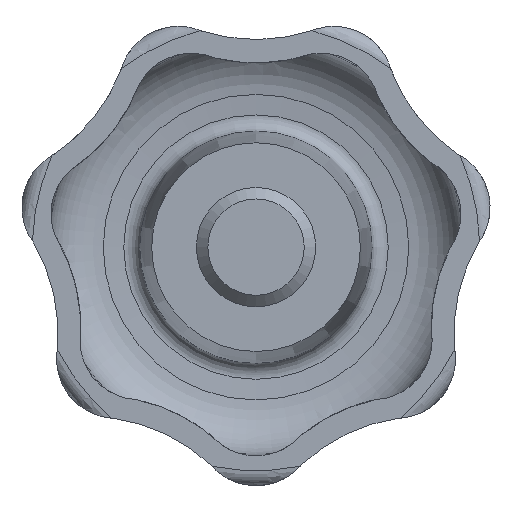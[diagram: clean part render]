
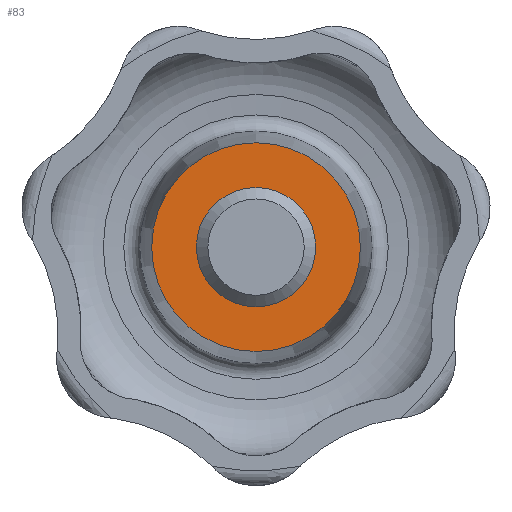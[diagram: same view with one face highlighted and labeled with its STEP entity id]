
A CAD part, front view. The second image highlights one B-rep face of the part: STEP entity #83.
In plain terms, the highlighted planar face has unit normal (0, -1, 0).
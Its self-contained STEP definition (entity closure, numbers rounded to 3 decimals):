
#83 = ADVANCED_FACE( '', ( #167, #168 ), #169, .F. );
#167 = FACE_BOUND( '', #326, .T. );
#168 = FACE_OUTER_BOUND( '', #327, .T. );
#169 = PLANE( '', #328 );
#326 = EDGE_LOOP( '', ( #553 ) );
#327 = EDGE_LOOP( '', ( #554 ) );
#328 = AXIS2_PLACEMENT_3D( '', #555, #556, #557 );
#553 = ORIENTED_EDGE( '', *, *, #1141, .F. );
#554 = ORIENTED_EDGE( '', *, *, #1142, .T. );
#555 = CARTESIAN_POINT( '', ( 7., 0., 0. ) );
#556 = DIRECTION( '', ( 0., 1., 0. ) );
#557 = DIRECTION( '', ( 0., 0., 1. ) );
#1141 = EDGE_CURVE( '', #1391, #1391, #1392, .T. );
#1142 = EDGE_CURVE( '', #1393, #1393, #1394, .T. );
#1391 = VERTEX_POINT( '', #2071 );
#1392 = CIRCLE( '', #2072, 4. );
#1393 = VERTEX_POINT( '', #2073 );
#1394 = CIRCLE( '', #2074, 7. );
#2071 = CARTESIAN_POINT( '', ( 0., 0., -4. ) );
#2072 = AXIS2_PLACEMENT_3D( '', #3043, #3044, #3045 );
#2073 = CARTESIAN_POINT( '', ( 0., 0., -7. ) );
#2074 = AXIS2_PLACEMENT_3D( '', #3046, #3047, #3048 );
#3043 = CARTESIAN_POINT( '', ( 0., 0., 0. ) );
#3044 = DIRECTION( '', ( 0., -1., 0. ) );
#3045 = DIRECTION( '', ( 0., 0., -1. ) );
#3046 = CARTESIAN_POINT( '', ( 0., 0., 0. ) );
#3047 = DIRECTION( '', ( 0., -1., 0. ) );
#3048 = DIRECTION( '', ( 0., 0., -1. ) );
